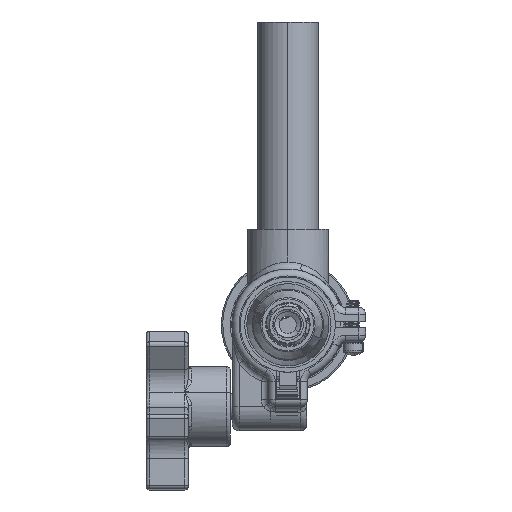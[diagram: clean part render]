
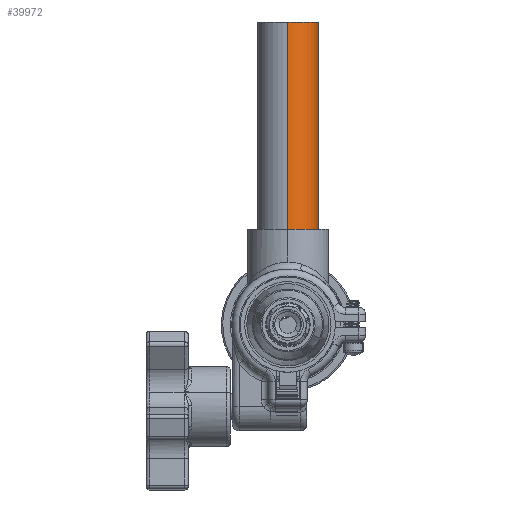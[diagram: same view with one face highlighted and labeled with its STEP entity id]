
A CAD part, left-side view. The second image highlights one B-rep face of the part: STEP entity #39972.
In plain terms, the highlighted cylindrical face has radius 11.113 mm (diameter 22.225 mm), a partial arc.
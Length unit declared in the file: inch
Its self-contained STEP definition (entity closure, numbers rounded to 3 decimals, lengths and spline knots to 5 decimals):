
#275 = EDGE_LOOP ( 'NONE', ( #69506, #79310, #62533, #45223 ) ) ;
#3437 = CARTESIAN_POINT ( 'NONE',  ( 1.3125, 0., 4.38125 ) ) ;
#4260 = DIRECTION ( 'NONE',  ( 0., 0., -1. ) ) ;
#10813 = DIRECTION ( 'NONE',  ( 0., 0., 1. ) ) ;
#11057 = CARTESIAN_POINT ( 'NONE',  ( 2.1875, 0., 1.38125 ) ) ;
#12690 = CARTESIAN_POINT ( 'NONE',  ( 1.3125, 0., 1.38125 ) ) ;
#14483 = LINE ( 'NONE', #3437, #60475 ) ;
#14883 = CYLINDRICAL_SURFACE ( 'NONE', #17349, 0.4375 ) ;
#16049 = EDGE_CURVE ( 'NONE', #22900, #63396, #14483, .T. ) ;
#16365 = VERTEX_POINT ( 'NONE', #51697 ) ;
#16957 = CARTESIAN_POINT ( 'NONE',  ( 1.75, 0., 4.38125 ) ) ;
#17349 = AXIS2_PLACEMENT_3D ( 'NONE', #16957, #4260, #22896 ) ;
#17977 = CARTESIAN_POINT ( 'NONE',  ( 1.75, 0., 4.38125 ) ) ;
#19596 = EDGE_CURVE ( 'NONE', #63396, #42836, #53466, .T. ) ;
#22896 = DIRECTION ( 'NONE',  ( -1., 0., 0. ) ) ;
#22900 = VERTEX_POINT ( 'NONE', #74325 ) ;
#26972 = DIRECTION ( 'NONE',  ( 0., 0., -1. ) ) ;
#27382 = LINE ( 'NONE', #60392, #72805 ) ;
#28849 = DIRECTION ( 'NONE',  ( 0., 0., -1. ) ) ;
#30459 = AXIS2_PLACEMENT_3D ( 'NONE', #53091, #78881, #35265 ) ;
#31493 = DIRECTION ( 'NONE',  ( 1., 0., 0. ) ) ;
#35265 = DIRECTION ( 'NONE',  ( 1., 0., 0. ) ) ;
#37832 = EDGE_CURVE ( 'NONE', #16365, #42836, #27382, .T. ) ;
#39972 = ADVANCED_FACE ( 'NONE', ( #53859 ), #14883, .T. ) ;
#42021 = AXIS2_PLACEMENT_3D ( 'NONE', #17977, #10813, #31493 ) ;
#42836 = VERTEX_POINT ( 'NONE', #11057 ) ;
#43528 = EDGE_CURVE ( 'NONE', #22900, #16365, #56827, .T. ) ;
#45223 = ORIENTED_EDGE ( 'NONE', *, *, #19596, .T. ) ;
#51697 = CARTESIAN_POINT ( 'NONE',  ( 2.1875, 0., 4.38125 ) ) ;
#53091 = CARTESIAN_POINT ( 'NONE',  ( 1.75, 0., 1.38125 ) ) ;
#53466 = CIRCLE ( 'NONE', #30459, 0.4375 ) ;
#53859 = FACE_OUTER_BOUND ( 'NONE', #275, .T. ) ;
#56827 = CIRCLE ( 'NONE', #42021, 0.4375 ) ;
#60392 = CARTESIAN_POINT ( 'NONE',  ( 2.1875, 0., 4.38125 ) ) ;
#60475 = VECTOR ( 'NONE', #28849, 39.37008 ) ;
#62533 = ORIENTED_EDGE ( 'NONE', *, *, #16049, .T. ) ;
#63396 = VERTEX_POINT ( 'NONE', #12690 ) ;
#69506 = ORIENTED_EDGE ( 'NONE', *, *, #37832, .F. ) ;
#72805 = VECTOR ( 'NONE', #26972, 39.37008 ) ;
#74325 = CARTESIAN_POINT ( 'NONE',  ( 1.3125, 0., 4.38125 ) ) ;
#78881 = DIRECTION ( 'NONE',  ( 0., 0., 1. ) ) ;
#79310 = ORIENTED_EDGE ( 'NONE', *, *, #43528, .F. ) ;
